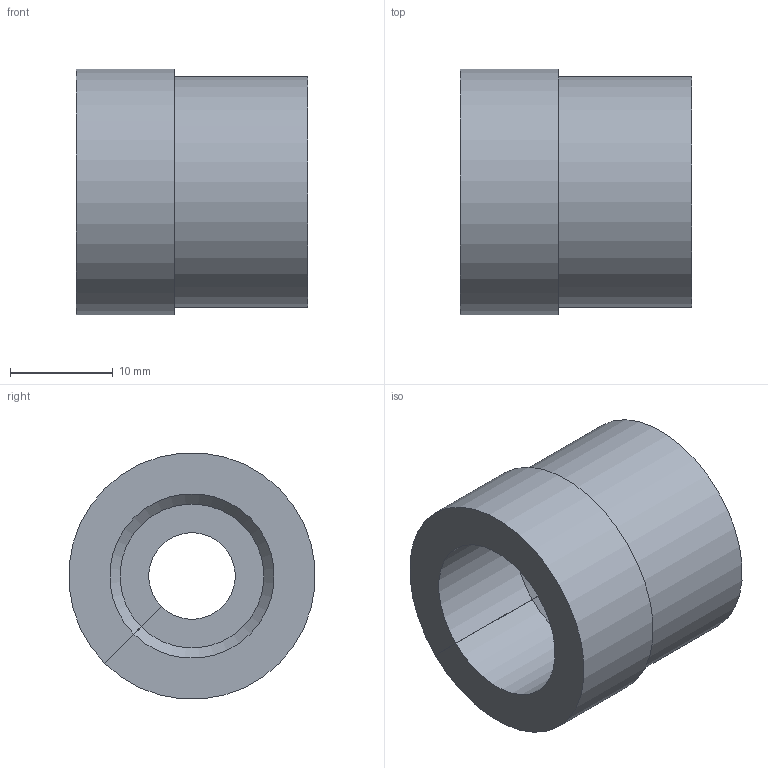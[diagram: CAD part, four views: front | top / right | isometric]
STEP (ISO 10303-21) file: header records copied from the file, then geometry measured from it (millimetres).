
FILE_DESCRIPTION(('Creo Elements/Direct Modeling STEP Export'),'2;1');
FILE_NAME('H18-0006-CL907-00_G22-08RS.stp','2023-06-09T11:55:50',(''),(''),'Creo Elements/Direct Modeling STEP processor for AP214 (Solid Model)','Creo Elements/Direct Modeling 20.3B 05-Dec-2020 (C) Parametric Technology GmbH','');
FILE_SCHEMA(('AUTOMOTIVE_DESIGN { 1 0 10303 214 1 1 1 1 }'));
Length unit declared in the file: millimetre
Products named in the file (2): G22-08RS
Assembly tree (1 placements, depth 2):
  G22-08RS
    G22-08RS
Bounding box: 22.5 x 23.91 x 23.91 mm (x, y, z)
Volume: 6567.7 mm3; surface area: 3511.2 mm2
Topology: 1 solids, 1 shells, 11 faces, 27 edges, 18 vertices
Faces by surface type: plane 6, cylinder 4, cone 1
Full cylindrical faces by diameter (mm): 22.5 x1, 24 x1
Entity records: 397 total; most frequent: CARTESIAN_POINT 82, DIRECTION 60, ORIENTED_EDGE 54, EDGE_CURVE 27, AXIS2_PLACEMENT_3D 22, VERTEX_POINT 18, VECTOR 16, LINE 16
